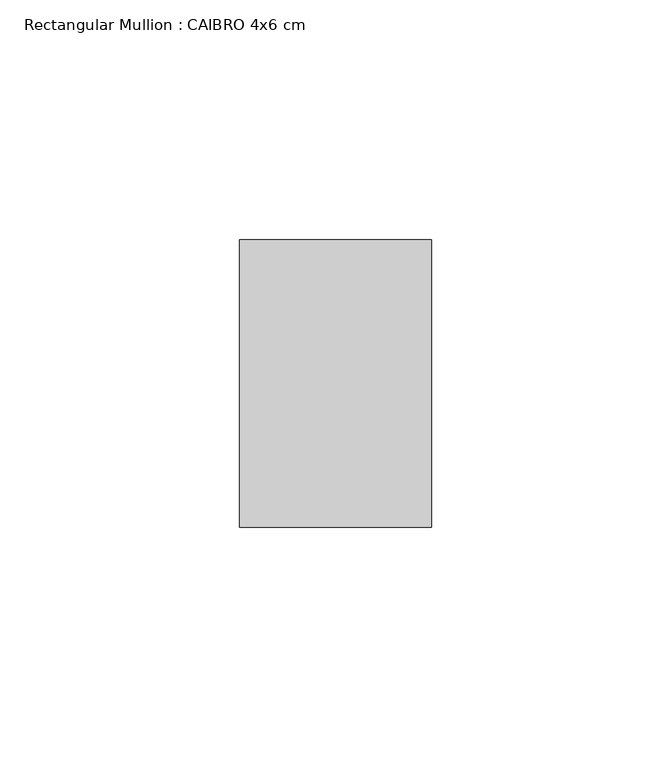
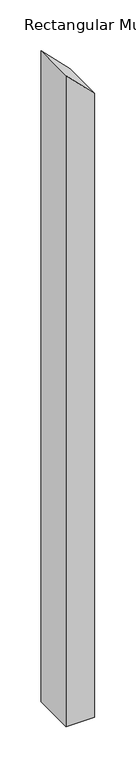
"""IFC4 building model written with IfcOpenShell, lengths in millimetres: member geometry, Rectangular Mullion : CAIBRO 4x6 cm."""

from ifc_helpers import new_model, si_unit, frame, origin, place, context, project, spatial, polyline, outline, extrude, source, transform, mapped, element, save


def rectangular_mullion_caibro_4x6_cm_a5e4316e(model_context):
    return source(origin(), model_context, "Body", "SweptSolid", [
        extrude(outline(polyline([(-77.109599, 20.0), (-36.6621022, -20.0), (-996.7898323, -20.0), (-996.7898323, 20.0), (-77.109599, 20.0)])), frame((0.0, 0.0, 0.0), z_axis=(0.0, 1.0, 0.0), x_axis=(0.0, 0.0, 1.0)), (0.0, 0.0, 1.0), 60.0),
    ])


if __name__ == "__main__":
    model = new_model("IFC4")
    model_context = context("Model", 3, world=origin())
    ifc_project = project(units=[si_unit("LENGTHUNIT", "METRE", prefix="MILLI")], contexts=[model_context])
    site = spatial("IfcSite", under=ifc_project)
    building = spatial("IfcBuilding", under=site)
    placement = place(None, origin())
    rectangular_mullion_caibro_4x6_cm_shape = rectangular_mullion_caibro_4x6_cm_a5e4316e(model_context)
    element("IfcMember", 1, ObjectType="Rectangular Mullion : CAIBRO 4x6 cm", at=placement, inside=building, context=model_context, shape_type="MappedRepresentation", body=[
        mapped(rectangular_mullion_caibro_4x6_cm_shape, transform((0.0, 0.0, 0.0), x_axis=(1.0, 0.0, 0.0), y_axis=(0.0, 1.0, 0.0), z_axis=(0.0, 0.0, 1.0))),
    ])
    save(model, "model.ifc")
